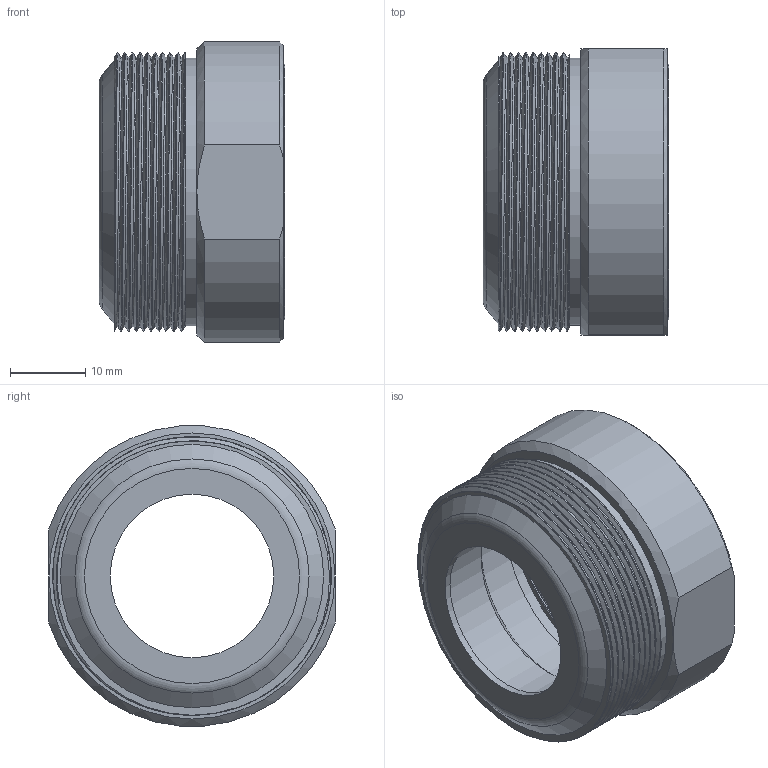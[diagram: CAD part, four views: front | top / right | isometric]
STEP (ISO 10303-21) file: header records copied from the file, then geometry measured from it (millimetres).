
FILE_DESCRIPTION (( 'STEP AP203' ), '1' );
FILE_NAME ('SH.IR4.A-»¤Ì×L-20250519.STEP', '2025-05-21T06:32:51', ( '' ), ( '' ), 'SwSTEP 2.0', 'SolidWorks 2023', '' );
FILE_SCHEMA (( 'CONFIG_CONTROL_DESIGN' ));
Length unit declared in the file: millimetre
Products named in the file (1): SH.IR4.A-护套L-20250519
Bounding box: 24.7 x 38 x 39.86 mm (x, y, z)
Volume: 10952.1 mm3; surface area: 7859.2 mm2
Topology: 1 solids, 1 shells, 37 faces, 75 edges, 49 vertices
Faces by surface type: plane 13, cylinder 11, cone 6, bspline 6, torus 1
Full cylindrical faces by diameter (mm): 21.72 x1, 25 x1, 31 x1, 32.5 x2, 34 x1, 35.5 x1
Entity records: 3967 total; most frequent: CARTESIAN_POINT 3208, DIRECTION 130, ORIENTED_EDGE 128, EDGE_CURVE 64, AXIS2_PLACEMENT_3D 62, EDGE_LOOP 58, VERTEX_POINT 48, FACE_OUTER_BOUND 45
